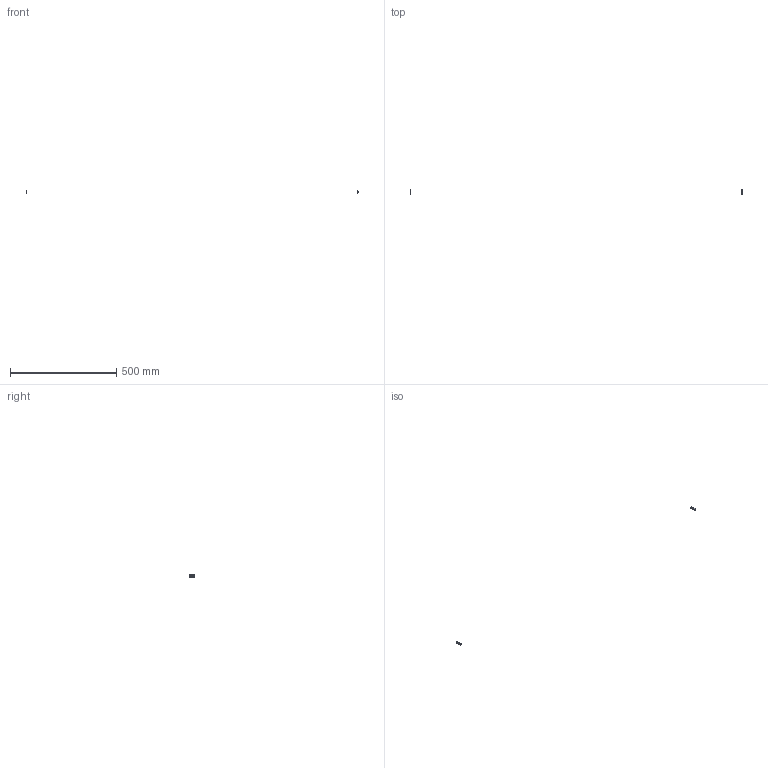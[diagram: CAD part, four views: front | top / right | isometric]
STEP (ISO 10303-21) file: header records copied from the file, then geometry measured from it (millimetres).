
FILE_DESCRIPTION(/* description */ (''),/* implementation_level */ '2;1');
FILE_NAME(/* name */ '4.frame-door#4.8#HNTE5-3',/* time_stamp */ '2014-12-01T20:13:07+01:00',/* author */ (''),/* organization */ (''),/* preprocessor_version */ 'ST-DEVELOPER v14',/* originating_system */ '',/* authorisation */ '');
FILE_SCHEMA (('AUTOMOTIVE_DESIGN'));
Length unit declared in the file: millimetre
Products named in the file (2): Document; tslot nut, pre, M3
Assembly tree (2 placements, depth 2):
  Document
    tslot nut, pre, M3  x2
Bounding box: 1562 x 24.02 x 10 mm (x, y, z)
Volume: 1232.7 mm3; surface area: 1427.6 mm2
Topology: 4 solids, 4 shells, 48 faces, 120 edges, 80 vertices
Faces by surface type: plane 40, bspline 8
Entity records: 2244 total; most frequent: CARTESIAN_POINT 911, B_SPLINE_CURVE_WITH_KNOTS 252, ORIENTED_EDGE 180, PCURVE 180, DEFINITIONAL_REPRESENTATION 180, SURFACE_CURVE 90, EDGE_CURVE 90, VERTEX_POINT 60
